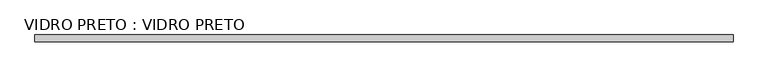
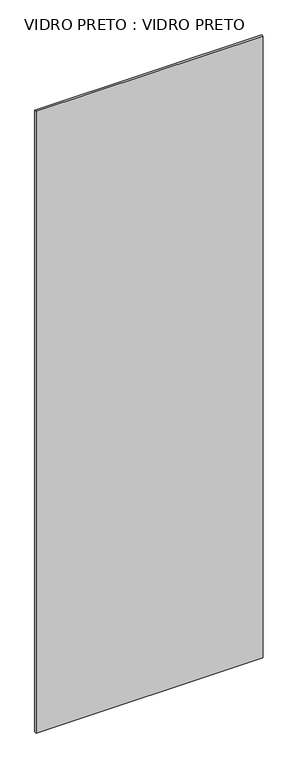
"""IFC4 building model written with IfcOpenShell, lengths in millimetres: proxy geometry, VIDRO PRETO : VIDRO PRETO."""

from ifc_helpers import new_model, si_unit, origin, origin_with_axes, place, context, project, spatial, polyline, outline, extrude, source, transform, mapped, element, save


def vidro_preto_vidro_preto_6965ab44(model_context):
    return source(origin(), model_context, "Body", "SweptSolid", [
        extrude(outline(polyline([(-2070.554001, 12185.2417838), (-3107.4887507, 12185.2417838), (-3107.4887507, 12195.2417838), (-2070.554001, 12195.2417838), (-2070.554001, 12185.2417838)])), origin_with_axes(), (0.0, 0.0, 1.0), 3000.0),
    ])


if __name__ == "__main__":
    model = new_model("IFC4")
    model_context = context("Model", 3, world=origin())
    ifc_project = project(units=[si_unit("LENGTHUNIT", "METRE", prefix="MILLI")], contexts=[model_context])
    site = spatial("IfcSite", under=ifc_project)
    building = spatial("IfcBuilding", under=site)
    placement = place(None, origin())
    vidro_preto_vidro_preto_shape = vidro_preto_vidro_preto_6965ab44(model_context)
    element("IfcBuildingElementProxy", 1, Name="VIDRO PRETO : VIDRO PRETO", ObjectType="VIDRO PRETO : VIDRO PRETO", at=placement, inside=building, context=model_context, shape_type="MappedRepresentation", body=[
        mapped(vidro_preto_vidro_preto_shape, transform((0.0, 0.0, 0.0), x_axis=(1.0, 0.0, 0.0), y_axis=(0.0, 1.0, 0.0), z_axis=(0.0, 0.0, 1.0))),
    ])
    save(model, "model.ifc")
